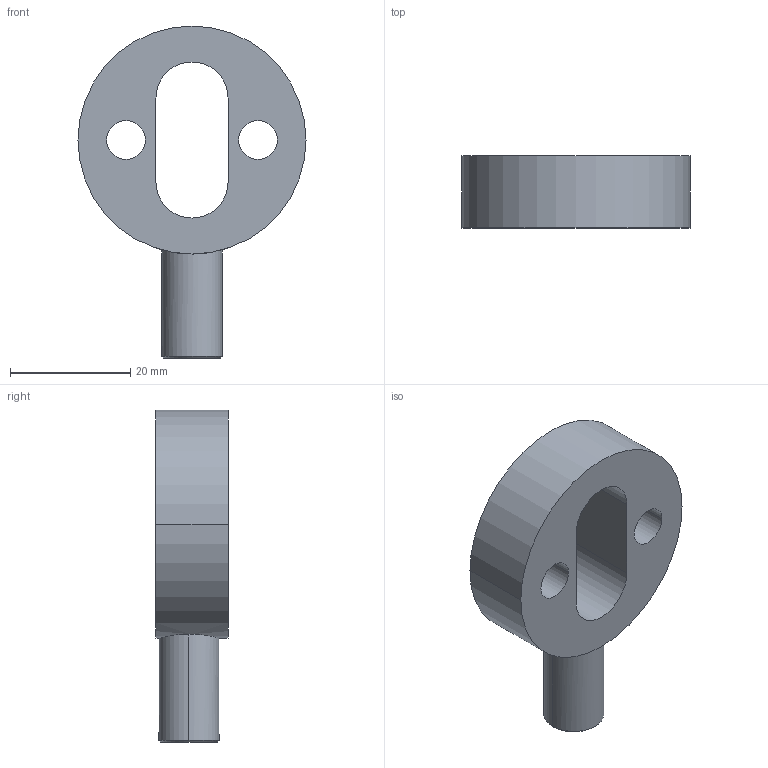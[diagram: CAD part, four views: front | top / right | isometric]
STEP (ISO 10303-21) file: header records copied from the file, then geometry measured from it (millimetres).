
FILE_DESCRIPTION((''),'2;1');
FILE_NAME('2600034_05__C','2018-04-09T',('11000714'),(''),'CREO PARAMETRIC BY PTC INC, 2017170','CREO PARAMETRIC BY PTC INC, 2017170','');
FILE_SCHEMA(('AUTOMOTIVE_DESIGN { 1 0 10303 214 1 1 1 1 }'));
Length unit declared in the file: millimetre
Products named in the file (1): 2600034_05__C
Bounding box: 38 x 12 x 55.33 mm (x, y, z)
Volume: 10288.3 mm3; surface area: 5791.5 mm2
Topology: 1 solids, 3 shells, 231 faces, 679 edges, 437 vertices
Faces by surface type: cylinder 98, plane 71, cone 43, torus 17, bspline 2
Entity records: 12735 total; most frequent: CARTESIAN_POINT 2703, DIRECTION 1387, ORIENTED_EDGE 1358, PRESENTATION_STYLE_ASSIGNMENT 880, STYLED_ITEM 680, CURVE_STYLE 679, EDGE_CURVE 679, AXIS2_PLACEMENT_3D 567
